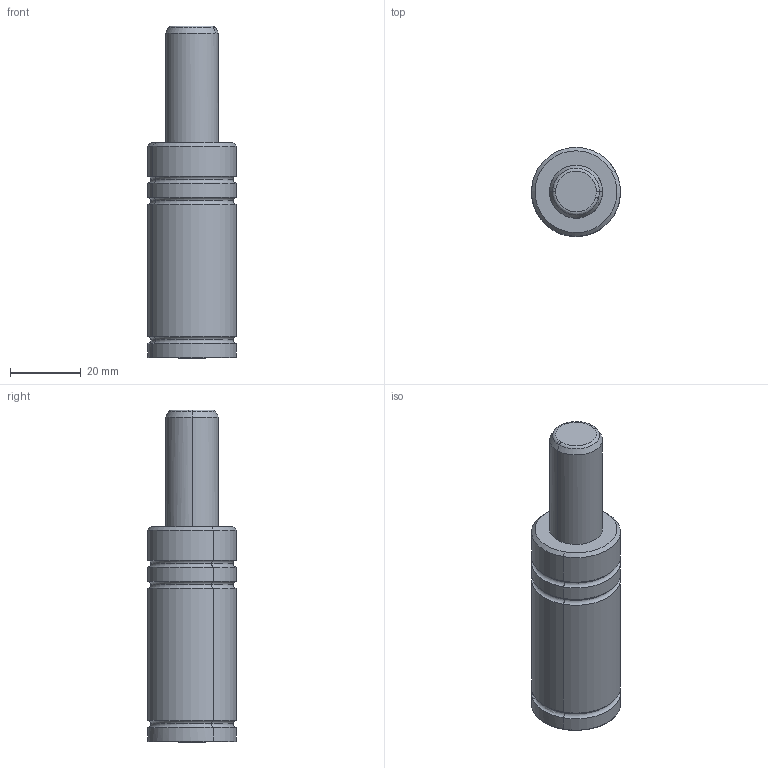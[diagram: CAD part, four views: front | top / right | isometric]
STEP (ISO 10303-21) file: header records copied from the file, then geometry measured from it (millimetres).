
FILE_DESCRIPTION(('CATIA V5 STEP Exchange'),'2;1');
FILE_NAME('W:\CATALOGO GENERAL 2018\FICHEROS CAD\001-MICRO\MICRO 25V\MICRO25Vx32.stp','2021-07-27T06:51:24+00:00',('none'),('none'),'CATIA Version 5 Release 17 (IN-10)','CATIA V5 STEP AP203','none');
FILE_SCHEMA(('CONFIG_CONTROL_DESIGN'));
Length unit declared in the file: millimetre
Products named in the file (1): MICRO25Vx32
Bounding box: 25.19 x 25.19 x 94 mm (x, y, z)
Volume: 35658.5 mm3; surface area: 7954.8 mm2
Topology: 2 solids, 2 shells, 42 faces, 83 edges, 46 vertices
Faces by surface type: torus 18, cylinder 12, cone 7, plane 5
Entity records: 1135 total; most frequent: CARTESIAN_POINT 282, ORIENTED_EDGE 166, DIRECTION 148, AXIS2_PLACEMENT_3D 94, EDGE_CURVE 83, CIRCLE 57, VERTEX_POINT 46, EDGE_LOOP 43
